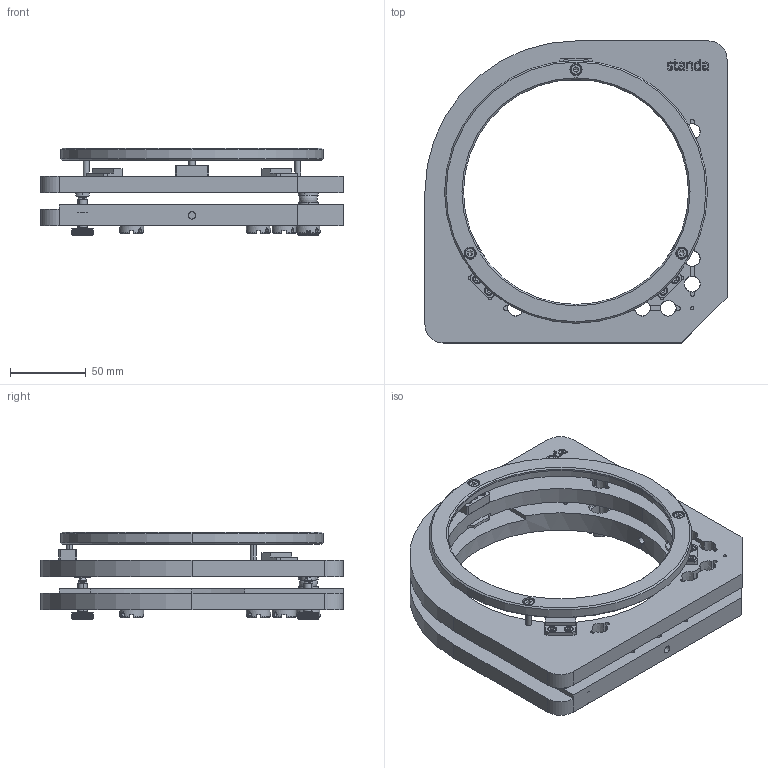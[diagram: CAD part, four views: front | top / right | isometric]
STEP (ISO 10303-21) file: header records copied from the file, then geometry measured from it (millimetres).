
FILE_DESCRIPTION((''),'2;1');
FILE_NAME('5LAM126-6 SB.stp','2017-10-10T08:35:26',(''),(''),'Mechanical Desktop 2011','Mechanical Desktop 2011',', , ');
FILE_SCHEMA(('CONFIG_CONTROL_DESIGN'));
Length unit declared in the file: millimetre
Products named in the file (1): Product
Bounding box: 200 x 200 x 57.81 mm (x, y, z)
Volume: 474802.3 mm3; surface area: 147698.3 mm2
Topology: 1 solids, 15 shells, 2683 faces, 7575 edges, 4984 vertices
Faces by surface type: plane 1056, cylinder 948, bspline 469, cone 158, torus 34, sphere 18
Entity records: 96481 total; most frequent: CARTESIAN_POINT 31389, ORIENTED_EDGE 15042, DIRECTION 12124, EDGE_CURVE 7521, VERTEX_POINT 4984, AXIS2_PLACEMENT_3D 4461, VECTOR 3202, LINE 3202
